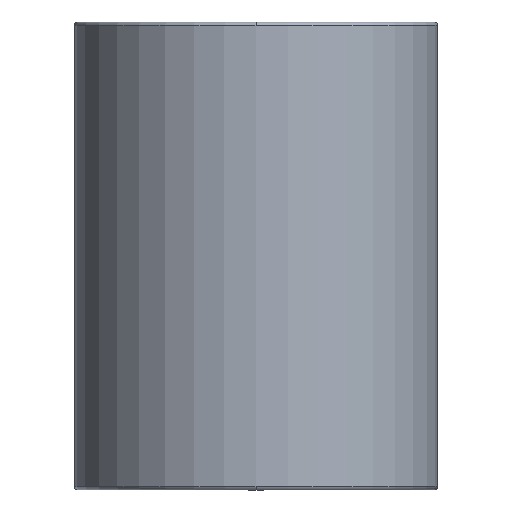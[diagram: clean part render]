
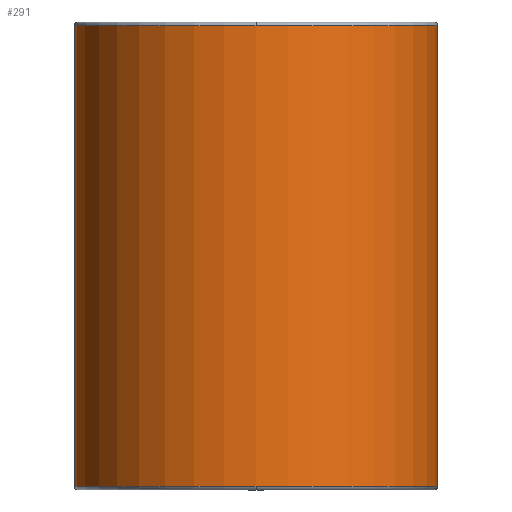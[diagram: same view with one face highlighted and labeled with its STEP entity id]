
A CAD part, front view. The second image highlights one B-rep face of the part: STEP entity #291.
In plain terms, the highlighted cylindrical face has radius 18.625 mm (diameter 37.25 mm), a partial arc.
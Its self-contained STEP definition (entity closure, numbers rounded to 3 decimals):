
#196=CARTESIAN_POINT('',(0.0,-18.625,30.1));
#197=VERTEX_POINT('',#196);
#223=CARTESIAN_POINT('',(-18.625,0.,30.1));
#224=VERTEX_POINT('',#223);
#232=CARTESIAN_POINT('',(0.0,0.,30.1));
#233=DIRECTION('',(0.0,0.0,1.0));
#234=DIRECTION('',(1.0,0.0,0.0));
#235=AXIS2_PLACEMENT_3D('',#232,#233,#234);
#236=CIRCLE('',#235,18.625);
#237=EDGE_CURVE('',#224,#197,#236,.T.);
#242=CARTESIAN_POINT('',(0.0,0.,6.5));
#243=DIRECTION('',(0.0,0.,1.0));
#244=DIRECTION('',(1.0,0.0,0.0));
#245=AXIS2_PLACEMENT_3D('',#242,#243,#244);
#246=CYLINDRICAL_SURFACE('',#245,18.625);
#247=CARTESIAN_POINT('',(18.625,0.,30.1));
#248=VERTEX_POINT('',#247);
#249=CARTESIAN_POINT('',(18.625,0.,-17.1));
#250=VERTEX_POINT('',#249);
#251=CARTESIAN_POINT('',(18.625,0.,30.1));
#252=DIRECTION('',(0.0,0.0,-1.0));
#253=VECTOR('',#252,47.2);
#254=LINE('',#251,#253);
#255=EDGE_CURVE('',#248,#250,#254,.T.);
#256=ORIENTED_EDGE('',*,*,#255,.F.);
#257=CARTESIAN_POINT('',(0.0,0.,30.1));
#258=DIRECTION('',(0.0,0.0,1.0));
#259=DIRECTION('',(1.0,0.0,0.0));
#260=AXIS2_PLACEMENT_3D('',#257,#258,#259);
#261=CIRCLE('',#260,18.625);
#262=EDGE_CURVE('',#197,#248,#261,.T.);
#263=ORIENTED_EDGE('',*,*,#262,.F.);
#264=ORIENTED_EDGE('',*,*,#237,.F.);
#265=CARTESIAN_POINT('',(-18.625,0.,-17.1));
#266=VERTEX_POINT('',#265);
#267=CARTESIAN_POINT('',(-18.625,0.,30.1));
#268=DIRECTION('',(0.0,0.0,-1.0));
#269=VECTOR('',#268,47.2);
#270=LINE('',#267,#269);
#271=EDGE_CURVE('',#224,#266,#270,.T.);
#272=ORIENTED_EDGE('',*,*,#271,.T.);
#273=CARTESIAN_POINT('',(0.0,-18.625,-17.1));
#274=VERTEX_POINT('',#273);
#275=CARTESIAN_POINT('',(0.0,0.,-17.1));
#276=DIRECTION('',(0.0,0.0,1.0));
#277=DIRECTION('',(1.0,0.0,0.0));
#278=AXIS2_PLACEMENT_3D('',#275,#276,#277);
#279=CIRCLE('',#278,18.625);
#280=EDGE_CURVE('',#266,#274,#279,.T.);
#281=ORIENTED_EDGE('',*,*,#280,.T.);
#282=CARTESIAN_POINT('',(0.0,0.,-17.1));
#283=DIRECTION('',(0.0,0.0,1.0));
#284=DIRECTION('',(1.0,0.0,0.0));
#285=AXIS2_PLACEMENT_3D('',#282,#283,#284);
#286=CIRCLE('',#285,18.625);
#287=EDGE_CURVE('',#274,#250,#286,.T.);
#288=ORIENTED_EDGE('',*,*,#287,.T.);
#289=EDGE_LOOP('',(#256,#263,#264,#272,#281,#288));
#290=FACE_OUTER_BOUND('',#289,.T.);
#291=ADVANCED_FACE('',(#290),#246,.T.);
